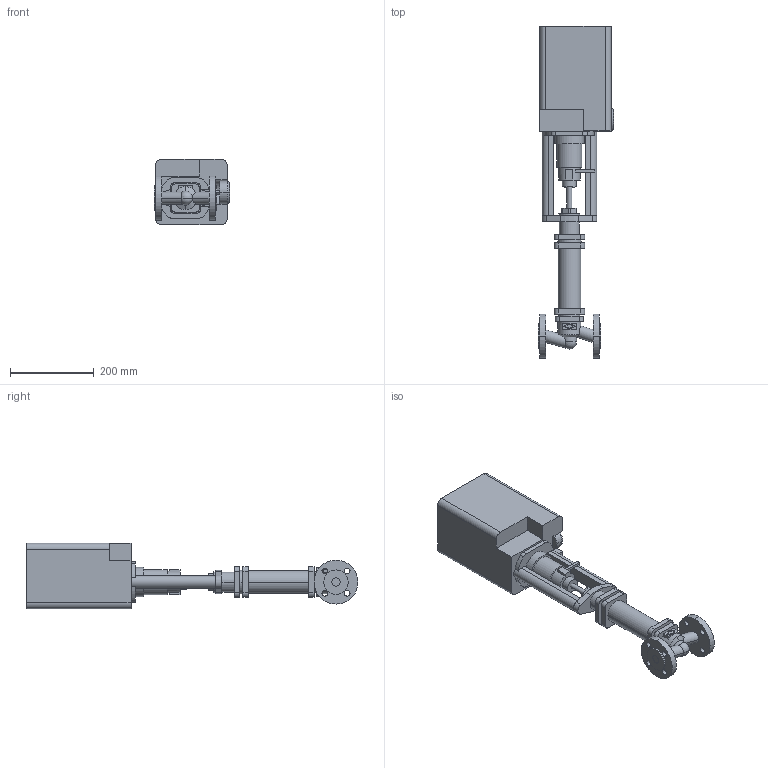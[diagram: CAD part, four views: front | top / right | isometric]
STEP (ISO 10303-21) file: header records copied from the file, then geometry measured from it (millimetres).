
FILE_DESCRIPTION(('CoCreate Modeling STEP Export'),'2;1');
FILE_NAME('c000004800.stp','2011-10-11T11:21:29',(''),(''),'CoCreate Modeling STEP processor for AP214 (Solid Model)','CoCreate Modeling 17.0 01-Apr-2010 (C) Parametric Technology GmbH','');
FILE_SCHEMA(('AUTOMOTIVE_DESIGN { 1 0 10303 214 1 1 1 1 }'));
Length unit declared in the file: millimetre
Products named in the file (2): 1; 2
Bounding box: 181.5 x 793.5 x 156 mm (x, y, z)
Volume: 8289339.2 mm3; surface area: 439203.4 mm2
Topology: 2 solids, 2 shells, 225 faces, 572 edges, 378 vertices
Faces by surface type: plane 108, cylinder 103, sphere 6, cone 4, torus 4
Entity records: 9410 total; most frequent: CARTESIAN_POINT 2308, ORIENTED_EDGE 1140, DIRECTION 1028, EDGE_CURVE 570, VERTEX_POINT 378, AXIS2_PLACEMENT_3D 357, VECTOR 314, LINE 314
